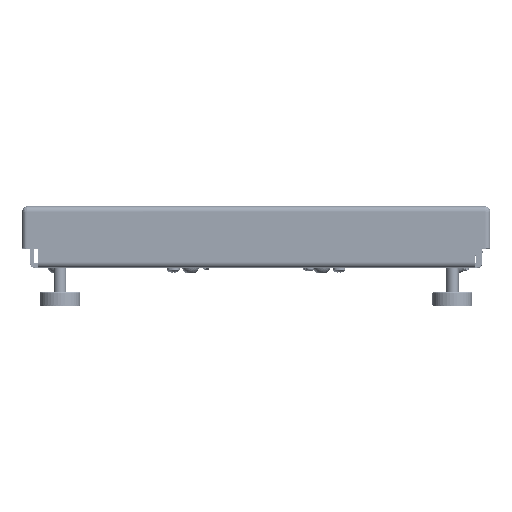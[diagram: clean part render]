
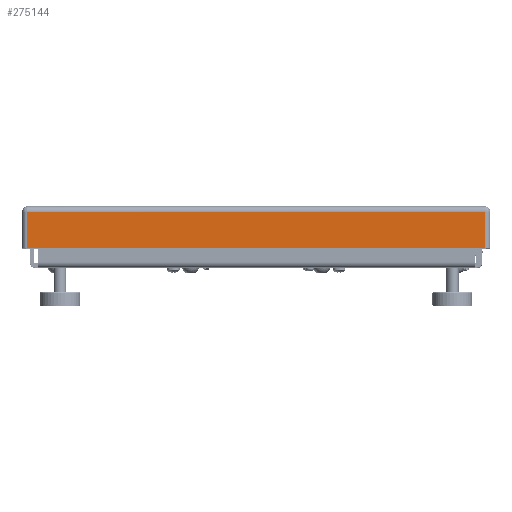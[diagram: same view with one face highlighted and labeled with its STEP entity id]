
A CAD part, top view. The second image highlights one B-rep face of the part: STEP entity #275144.
In plain terms, the highlighted planar face has unit normal (0, 0, 1) as drawn and (0, 0, -1) by its records, which use the part's own axes.
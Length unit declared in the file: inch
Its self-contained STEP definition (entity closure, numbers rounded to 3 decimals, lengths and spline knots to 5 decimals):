
#7839 = LINE ( 'NONE', #658780, #415385 ) ;
#56826 = DIRECTION ( 'NONE',  ( 1., 0., 0. ) ) ;
#59289 = LINE ( 'NONE', #393474, #241034 ) ;
#80997 = EDGE_CURVE ( 'NONE', #132946, #205340, #281198, .T. ) ;
#123982 = LINE ( 'NONE', #139472, #413667 ) ;
#132946 = VERTEX_POINT ( 'NONE', #339158 ) ;
#139472 = CARTESIAN_POINT ( 'NONE',  ( 0., 0.946, -5.86998 ) ) ;
#143431 = VERTEX_POINT ( 'NONE', #683942 ) ;
#205340 = VERTEX_POINT ( 'NONE', #526697 ) ;
#217339 = VECTOR ( 'NONE', #428006, 39.37008 ) ;
#241034 = VECTOR ( 'NONE', #56826, 39.37008 ) ;
#242526 = EDGE_CURVE ( 'NONE', #143431, #205340, #123982, .T. ) ;
#260902 = CARTESIAN_POINT ( 'NONE',  ( 5.73814, 0., -5.86998 ) ) ;
#264085 = PLANE ( 'NONE',  #594694 ) ;
#267287 = VERTEX_POINT ( 'NONE', #606226 ) ;
#275144 = ADVANCED_FACE ( 'NONE', ( #467198 ), #264085, .F. ) ;
#281198 = LINE ( 'NONE', #260902, #217339 ) ;
#339158 = CARTESIAN_POINT ( 'NONE',  ( 5.73814, 0.032, -5.86998 ) ) ;
#358523 = ORIENTED_EDGE ( 'NONE', *, *, #242526, .T. ) ;
#370113 = DIRECTION ( 'NONE',  ( 0., 1., 0. ) ) ;
#387617 = EDGE_LOOP ( 'NONE', ( #402356, #701562, #358523, #562834 ) ) ;
#393474 = CARTESIAN_POINT ( 'NONE',  ( 5.86998, 0.032, -5.86998 ) ) ;
#402356 = ORIENTED_EDGE ( 'NONE', *, *, #709532, .F. ) ;
#413667 = VECTOR ( 'NONE', #483581, 39.37008 ) ;
#415385 = VECTOR ( 'NONE', #370113, 39.37008 ) ;
#428006 = DIRECTION ( 'NONE',  ( 0., 1., 0. ) ) ;
#438638 = DIRECTION ( 'NONE',  ( 0., 0., 1. ) ) ;
#467198 = FACE_OUTER_BOUND ( 'NONE', #387617, .T. ) ;
#483581 = DIRECTION ( 'NONE',  ( 1., 0., 0. ) ) ;
#496891 = DIRECTION ( 'NONE',  ( 0., -1., 0. ) ) ;
#526697 = CARTESIAN_POINT ( 'NONE',  ( 5.73814, 0.946, -5.86998 ) ) ;
#562834 = ORIENTED_EDGE ( 'NONE', *, *, #80997, .F. ) ;
#594694 = AXIS2_PLACEMENT_3D ( 'NONE', #669165, #438638, #496891 ) ;
#606226 = CARTESIAN_POINT ( 'NONE',  ( -5.73814, 0.032, -5.86998 ) ) ;
#658780 = CARTESIAN_POINT ( 'NONE',  ( -5.73814, 0., -5.86998 ) ) ;
#669165 = CARTESIAN_POINT ( 'NONE',  ( 0., 0., -5.86998 ) ) ;
#683942 = CARTESIAN_POINT ( 'NONE',  ( -5.73814, 0.946, -5.86998 ) ) ;
#701562 = ORIENTED_EDGE ( 'NONE', *, *, #727553, .T. ) ;
#709532 = EDGE_CURVE ( 'NONE', #267287, #132946, #59289, .T. ) ;
#727553 = EDGE_CURVE ( 'NONE', #267287, #143431, #7839, .T. ) ;
